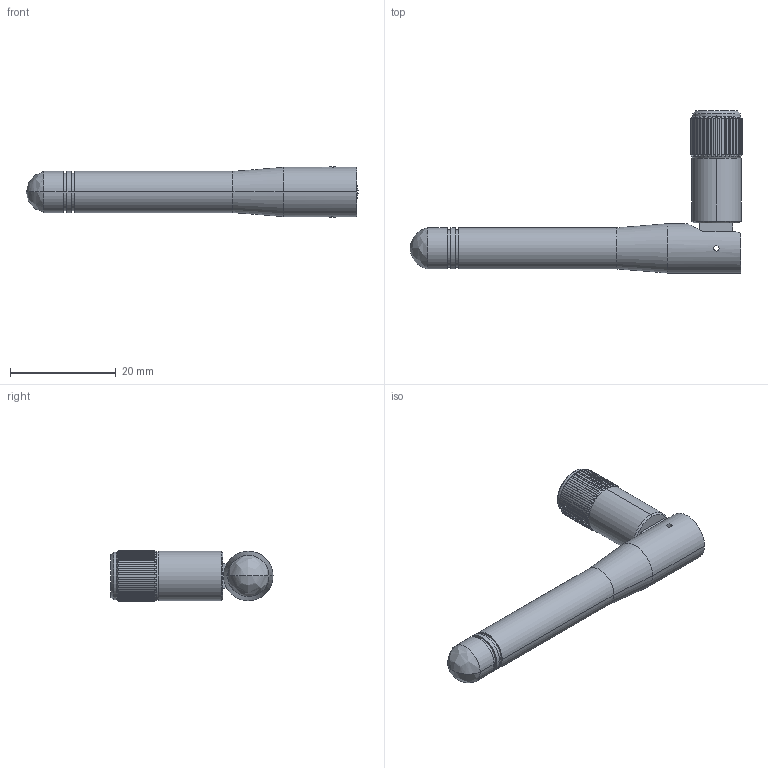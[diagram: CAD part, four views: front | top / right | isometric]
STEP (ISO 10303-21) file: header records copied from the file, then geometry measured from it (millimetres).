
FILE_DESCRIPTION((''),'2;1');
FILE_NAME('X9001091-W3DRMW_ASM','2023-10-03T',('gfichot'),(''),'CREO PARAMETRIC BY PTC INC, 2016130','CREO PARAMETRIC BY PTC INC, 2016130','');
FILE_SCHEMA(('CONFIG_CONTROL_DESIGN'));
Length unit declared in the file: millimetre
Products named in the file (3): ANTENNA-BASE; ANTENNA-CAP; X9001091-W3DRMW_ASM
Assembly tree (2 placements, depth 2):
  X9001091-W3DRMW_ASM
    ANTENNA-BASE
    ANTENNA-CAP
Bounding box: 62.84 x 30.68 x 9.68 mm (x, y, z)
Volume: 4648.1 mm3; surface area: 2850.4 mm2
Topology: 2 solids, 2 shells, 202 faces, 565 edges, 371 vertices
Faces by surface type: cylinder 97, plane 93, cone 8, bspline 2, torus 2
Entity records: 6719 total; most frequent: CARTESIAN_POINT 1262, DIRECTION 1165, ORIENTED_EDGE 1126, EDGE_CURVE 563, AXIS2_PLACEMENT_3D 406, VERTEX_POINT 371, VECTOR 353, LINE 353
